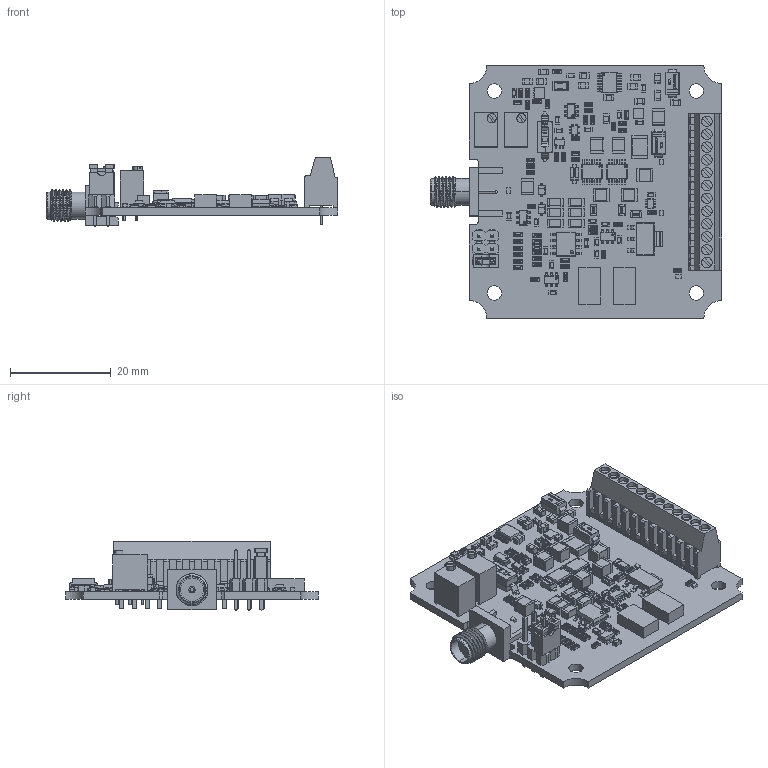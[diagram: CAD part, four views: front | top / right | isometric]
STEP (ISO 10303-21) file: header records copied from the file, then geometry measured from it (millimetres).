
FILE_DESCRIPTION(('Open CASCADE Model'),'2;1');
FILE_NAME('Open CASCADE Shape Model','2019-01-08T17:02:00',('Author'),( 'Open CASCADE'),'Open CASCADE STEP processor 6.8','Open CASCADE 6.8' ,'Unknown');
FILE_SCHEMA(('AUTOMOTIVE_DESIGN { 1 0 10303 214 1 1 1 1 }'));
Length unit declared in the file: millimetre
Products named in the file (176): DRV200S_V1
Assembly tree (276 placements, depth 4):
  DRV200S_V1
    DRV200S_V1
    DRV200S_V1
      DRV200S_V1
    DRV200S_V1
      DRV200S_V1
    DRV200S_V1
      DRV200S_V1
    DRV200S_V1
      DRV200S_V1
    DRV200S_V1
      DRV200S_V1
    DRV200S_V1
      DRV200S_V1
    DRV200S_V1
      DRV200S_V1
    DRV200S_V1
      DRV200S_V1
    DRV200S_V1
      DRV200S_V1
    DRV200S_V1
      DRV200S_V1
        DRV200S_V1
    DRV200S_V1
      DRV200S_V1
        DRV200S_V1
    DRV200S_V1
      DRV200S_V1
        DRV200S_V1
    DRV200S_V1
      DRV200S_V1
        DRV200S_V1
    DRV200S_V1
      DRV200S_V1
    DRV200S_V1
      DRV200S_V1
        DRV200S_V1
      DRV200S_V1
        DRV200S_V1
      DRV200S_V1
        DRV200S_V1
      DRV200S_V1
        DRV200S_V1
    DRV200S_V1
      DRV200S_V1
    DRV200S_V1
      DRV200S_V1
    DRV200S_V1
      DRV200S_V1
        DRV200S_V1
        DRV200S_V1
    DRV200S_V1
      DRV200S_V1
    DRV200S_V1
      DRV200S_V1
    DRV200S_V1
      DRV200S_V1
    DRV200S_V1
      DRV200S_V1
    DRV200S_V1
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Bounding box: 57.67 x 50 x 13.81 mm (x, y, z)
Volume: 6793.8 mm3; surface area: 10850.1 mm2
Topology: 291 solids, 292 shells, 9759 faces, 24777 edges, 15738 vertices
Faces by surface type: plane 5454, bspline 2131, cylinder 1711, sphere 421, cone 38, torus 4
Full cylindrical faces by diameter (mm): 0.65 x4, 0.9 x24, 2.85 x4
Entity records: 102790 total; most frequent: CARTESIAN_POINT 24448, ORIENTED_EDGE 12880, DIRECTION 12156, EDGE_CURVE 6442, LINE 4618, VECTOR 4618, VERTEX_POINT 4151, AXIS2_PLACEMENT_3D 3769
